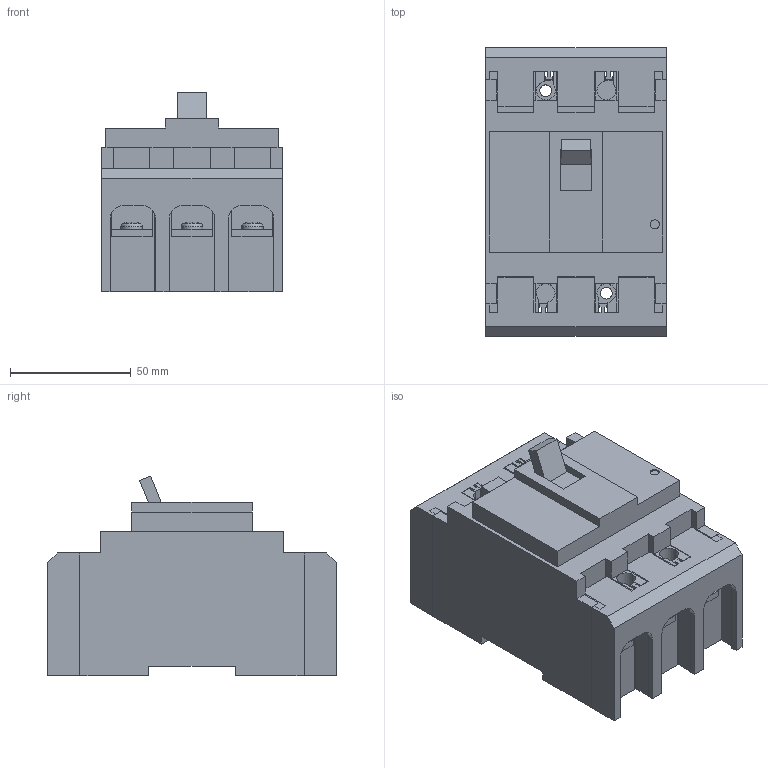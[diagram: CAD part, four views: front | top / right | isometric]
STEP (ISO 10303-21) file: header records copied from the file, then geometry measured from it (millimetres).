
FILE_DESCRIPTION (( 'STEP AP214' ), '1' );
FILE_NAME ('BW50RAGU-3P.STEP', '2013-10-08T01:38:25', ( '川崎工場' ), ( '富士電機システムズ株式会社' ), 'SwSTEP 2.0', 'SolidWorks 2005204', '' );
FILE_SCHEMA (( 'AUTOMOTIVE_DESIGN' ));
Length unit declared in the file: millimetre
Products named in the file (11): BW50RAGU-3P_PLATE2_蹬怮椔; BW50RAGU-3P_PLATE4_蹬怮椔; BW50RAGU-3P; BW50RAGU-3P_PLATE5_蹬怮椔; BW50RAGU-3P_PLATE6_蹬怮椔; BW9BTAA-S3_2_蹬怮椔; BW9BTAA-S3_1_蹬怮椔; BW50RAGU-3P_CASE_蹬怮椔; BW50RAGU-3P_SWITCH_蹬怮椔; BW50RAGU-3P_PLATE1_蹬怮椔; BW50RAGU-3P_PLATE3_蹬怮椔
Assembly tree (10 placements, depth 2):
  BW50RAGU-3P
    BW50RAGU-3P_CASE_蹬怮椔
    BW50RAGU-3P_PLATE4_蹬怮椔
    BW50RAGU-3P_SWITCH_蹬怮椔
    BW50RAGU-3P_PLATE5_蹬怮椔
    BW50RAGU-3P_PLATE2_蹬怮椔
    BW9BTAA-S3_1_蹬怮椔
    BW9BTAA-S3_2_蹬怮椔
    BW50RAGU-3P_PLATE1_蹬怮椔
    BW50RAGU-3P_PLATE3_蹬怮椔
    BW50RAGU-3P_PLATE6_蹬怮椔
Bounding box: 75 x 119.8 x 82.91 mm (x, y, z)
Volume: 429609.5 mm3; surface area: 80349.2 mm2
Topology: 10 solids, 10 shells, 396 faces, 1068 edges, 702 vertices
Faces by surface type: plane 294, cylinder 78, bspline 24
Entity records: 17203 total; most frequent: CARTESIAN_POINT 2527, ORIENTED_EDGE 2112, DIRECTION 2030, EDGE_CURVE 1056, VECTOR 852, LINE 852, VERTEX_POINT 702, AXIS2_PLACEMENT_3D 589
